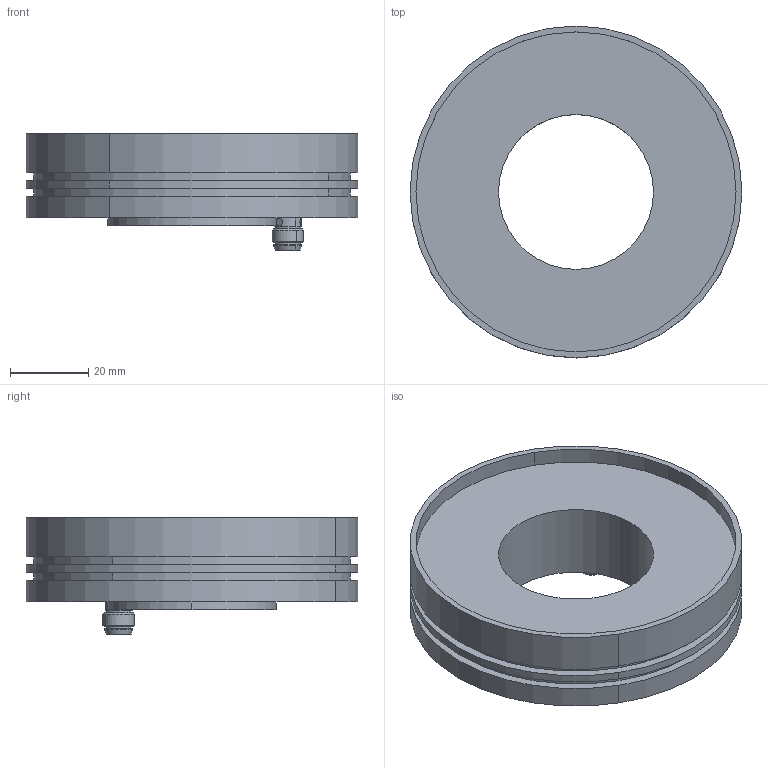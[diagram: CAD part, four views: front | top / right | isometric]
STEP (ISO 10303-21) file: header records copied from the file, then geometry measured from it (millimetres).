
FILE_DESCRIPTION(('STEP AP214'),'1');
FILE_NAME('Z:/Projekte Hr. Wünsch/SpaceClaim/Rondo-MX/Rondo-MX-Gehäuse.stp','2014-04-28T12:27:41',(' '),(' '),'Spatial InterOp 3D',' ',' ');
FILE_SCHEMA(('automotive_design'));
Length unit declared in the file: millimetre
Products named in the file (2): Rondo-MX-Gehäuse; M8-Einbaustecker
Assembly tree (1 placements, depth 2):
  Rondo-MX-Gehäuse
    M8-Einbaustecker
Bounding box: 84.6 x 84.6 x 29.8 mm (x, y, z)
Volume: 51520.4 mm3; surface area: 33656 mm2
Topology: 1 solids, 2 shells, 220 faces, 527 edges, 329 vertices
Faces by surface type: cylinder 136, plane 44, cone 24, bspline 8, sphere 4, torus 4
Entity records: 9051 total; most frequent: CARTESIAN_POINT 2152, DIRECTION 1139, ORIENTED_EDGE 1006, EDGE_CURVE 503, AXIS2_PLACEMENT_3D 498, VERTEX_POINT 329, CIRCLE 281, EDGE_LOOP 266
